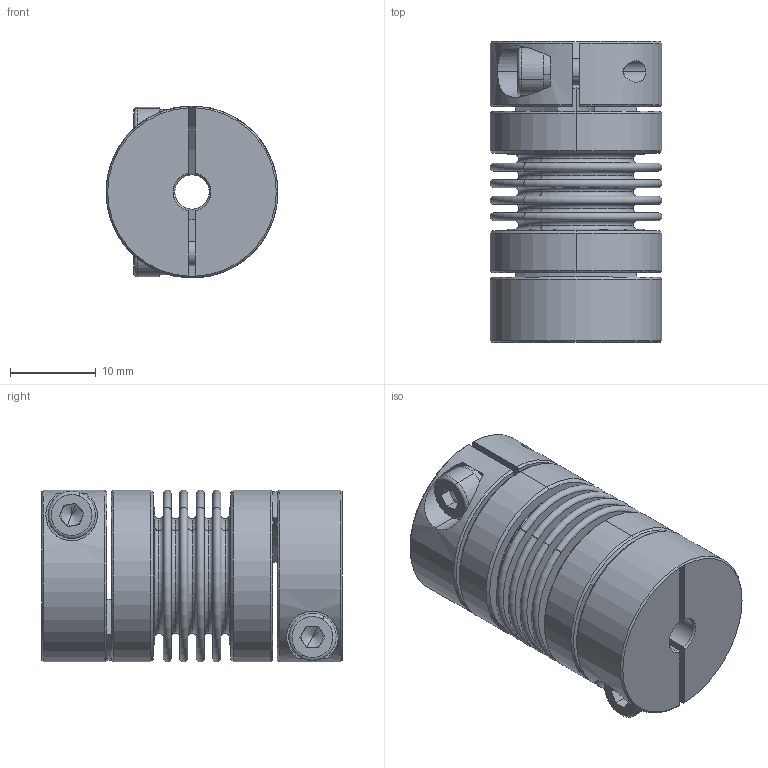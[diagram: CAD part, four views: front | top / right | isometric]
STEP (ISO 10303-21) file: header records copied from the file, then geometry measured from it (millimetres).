
FILE_DESCRIPTION (( 'STEP AP203' ), '1' );
FILE_NAME ('LB-B-D20L34-4-7.STEP', '2021-11-04T01:37:58', ( '' ), ( '' ), 'SwSTEP 2.0', 'SolidWorks 2018', '' );
FILE_SCHEMA (( 'CONFIG_CONTROL_DESIGN' ));
Length unit declared in the file: millimetre
Products named in the file (2): 零件4^LB-B-D20L34 波纹管联轴器-组装体; LB-B-D20L34-4-7
Assembly tree (1 placements, depth 2):
  LB-B-D20L34-4-7
    零件4^LB-B-D20L34 波纹管联轴器-组装体
Bounding box: 20 x 35 x 20 mm (x, y, z)
Volume: 6176.2 mm3; surface area: 9566.2 mm2
Topology: 1 solids, 1 shells, 246 faces, 572 edges, 354 vertices
Faces by surface type: plane 83, torus 68, cylinder 61, cone 34
Entity records: 7500 total; most frequent: CARTESIAN_POINT 1478, DIRECTION 1376, ORIENTED_EDGE 1136, AXIS2_PLACEMENT_3D 604, EDGE_CURVE 568, CIRCLE 354, VERTEX_POINT 354, EDGE_LOOP 288
